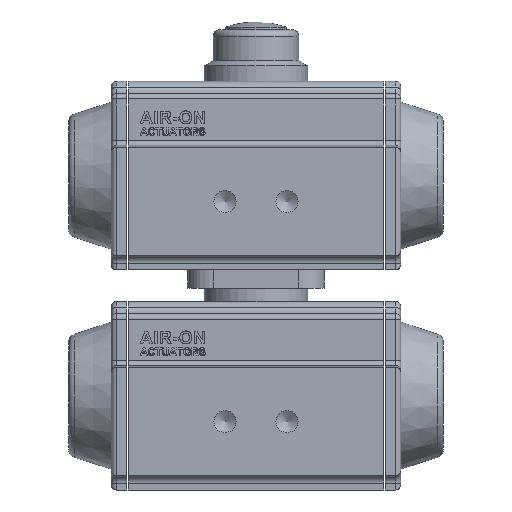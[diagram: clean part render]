
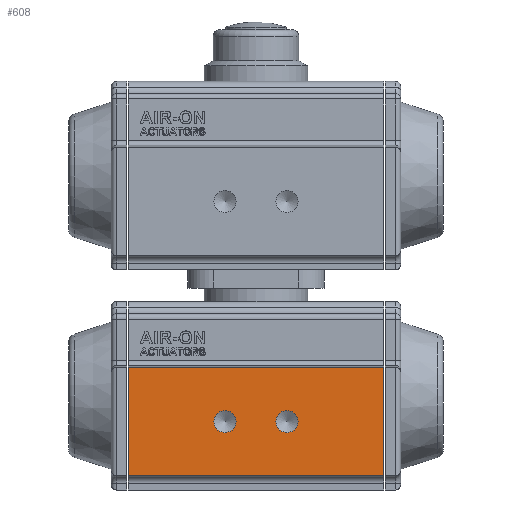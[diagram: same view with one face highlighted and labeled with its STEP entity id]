
A CAD part, front view. The second image highlights one B-rep face of the part: STEP entity #608.
In plain terms, the highlighted planar face has unit normal (0, -1, 0).
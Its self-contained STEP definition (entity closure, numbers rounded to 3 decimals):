
#608 = ADVANCED_FACE( '', ( #1627, #1628, #1629 ), #1630, .T. );
#1627 = FACE_BOUND( '', #3244, .T. );
#1628 = FACE_BOUND( '', #3245, .T. );
#1629 = FACE_OUTER_BOUND( '', #3246, .T. );
#1630 = PLANE( '', #3247 );
#3244 = EDGE_LOOP( '', ( #7067 ) );
#3245 = EDGE_LOOP( '', ( #7068 ) );
#3246 = EDGE_LOOP( '', ( #7069, #7070, #7071, #7072 ) );
#3247 = AXIS2_PLACEMENT_3D( '', #7073, #7074, #7075 );
#7067 = ORIENTED_EDGE( '', *, *, #11288, .T. );
#7068 = ORIENTED_EDGE( '', *, *, #11289, .T. );
#7069 = ORIENTED_EDGE( '', *, *, #11290, .F. );
#7070 = ORIENTED_EDGE( '', *, *, #11291, .F. );
#7071 = ORIENTED_EDGE( '', *, *, #11292, .T. );
#7072 = ORIENTED_EDGE( '', *, *, #11162, .T. );
#7073 = CARTESIAN_POINT( '', ( 49.5, -42., -31. ) );
#7074 = DIRECTION( '', ( 0., -1., 0. ) );
#7075 = DIRECTION( '', ( 0., 0., -1. ) );
#11162 = EDGE_CURVE( '', #12809, #12806, #12810, .T. );
#11288 = EDGE_CURVE( '', #13028, #13028, #13029, .T. );
#11289 = EDGE_CURVE( '', #13030, #13030, #13031, .T. );
#11290 = EDGE_CURVE( '', #13032, #12806, #13033, .T. );
#11291 = EDGE_CURVE( '', #13034, #13032, #13035, .T. );
#11292 = EDGE_CURVE( '', #13034, #12809, #13036, .T. );
#12806 = VERTEX_POINT( '', #15272 );
#12809 = VERTEX_POINT( '', #15276 );
#12810 = LINE( '', #15277, #15278 );
#13028 = VERTEX_POINT( '', #15692 );
#13029 = CIRCLE( '', #15693, 4.283 );
#13030 = VERTEX_POINT( '', #15694 );
#13031 = CIRCLE( '', #15695, 4.283 );
#13032 = VERTEX_POINT( '', #15696 );
#13033 = LINE( '', #15697, #15698 );
#13034 = VERTEX_POINT( '', #15699 );
#13035 = LINE( '', #15700, #15701 );
#13036 = LINE( '', #15702, #15703 );
#15272 = CARTESIAN_POINT( '', ( -49.5, -42., 11. ) );
#15276 = CARTESIAN_POINT( '', ( 49.5, -42., 11. ) );
#15277 = CARTESIAN_POINT( '', ( 49.5, -42., 11. ) );
#15278 = VECTOR( '', #21490, 1000. );
#15692 = CARTESIAN_POINT( '', ( -12., -42., -14.283 ) );
#15693 = AXIS2_PLACEMENT_3D( '', #21622, #21623, #21624 );
#15694 = CARTESIAN_POINT( '', ( 12., -42., -14.283 ) );
#15695 = AXIS2_PLACEMENT_3D( '', #21625, #21626, #21627 );
#15696 = CARTESIAN_POINT( '', ( -49.5, -42., -31. ) );
#15697 = CARTESIAN_POINT( '', ( -49.5, -42., -31. ) );
#15698 = VECTOR( '', #21628, 1000. );
#15699 = CARTESIAN_POINT( '', ( 49.5, -42., -31. ) );
#15700 = CARTESIAN_POINT( '', ( 49.5, -42., -31. ) );
#15701 = VECTOR( '', #21629, 1000. );
#15702 = CARTESIAN_POINT( '', ( 49.5, -42., -31. ) );
#15703 = VECTOR( '', #21630, 1000. );
#21490 = DIRECTION( '', ( -1., 0., 0. ) );
#21622 = CARTESIAN_POINT( '', ( -12., -42., -10. ) );
#21623 = DIRECTION( '', ( 0., 1., 0. ) );
#21624 = DIRECTION( '', ( 0., 0., -1. ) );
#21625 = CARTESIAN_POINT( '', ( 12., -42., -10. ) );
#21626 = DIRECTION( '', ( 0., 1., 0. ) );
#21627 = DIRECTION( '', ( 0., 0., -1. ) );
#21628 = DIRECTION( '', ( 0., 0., 1. ) );
#21629 = DIRECTION( '', ( -1., 0., 0. ) );
#21630 = DIRECTION( '', ( 0., 0., 1. ) );
